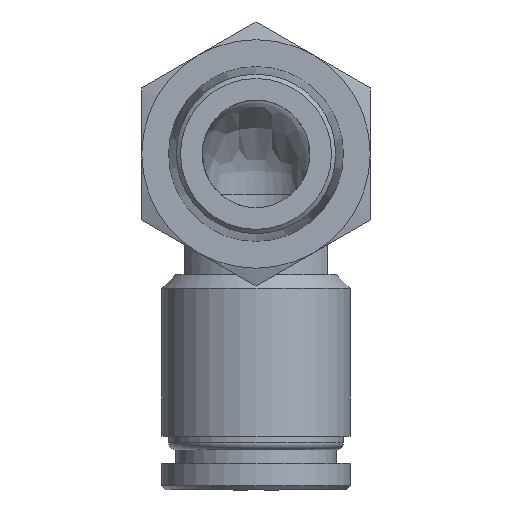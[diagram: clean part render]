
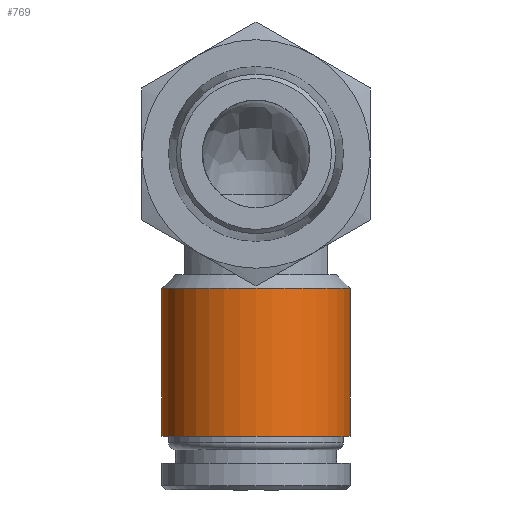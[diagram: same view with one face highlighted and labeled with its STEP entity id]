
A CAD part, front view. The second image highlights one B-rep face of the part: STEP entity #769.
In plain terms, the highlighted cylindrical face has radius 7 mm (diameter 14 mm), a full revolution.
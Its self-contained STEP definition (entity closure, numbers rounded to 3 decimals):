
#27=CYLINDRICAL_SURFACE('',#885,7.);
#122=FACE_OUTER_BOUND('',#181,.T.);
#181=EDGE_LOOP('',(#648,#649,#650,#651));
#213=LINE('',#1380,#243);
#243=VECTOR('',#1093,7.);
#292=CIRCLE('',#878,7.);
#295=CIRCLE('',#884,7.);
#362=VERTEX_POINT('',#1367);
#364=VERTEX_POINT('',#1377);
#459=EDGE_CURVE('',#362,#362,#292,.T.);
#463=EDGE_CURVE('',#364,#364,#295,.T.);
#464=EDGE_CURVE('',#362,#364,#213,.T.);
#648=ORIENTED_EDGE('',*,*,#459,.F.);
#649=ORIENTED_EDGE('',*,*,#464,.T.);
#650=ORIENTED_EDGE('',*,*,#463,.T.);
#651=ORIENTED_EDGE('',*,*,#464,.F.);
#769=ADVANCED_FACE('',(#122),#27,.T.);
#878=AXIS2_PLACEMENT_3D('',#1369,#1076,#1077);
#884=AXIS2_PLACEMENT_3D('',#1378,#1089,#1090);
#885=AXIS2_PLACEMENT_3D('',#1379,#1091,#1092);
#1076=DIRECTION('center_axis',(0.,0.,1.));
#1077=DIRECTION('ref_axis',(1.,0.,0.));
#1089=DIRECTION('center_axis',(0.,0.,1.));
#1090=DIRECTION('ref_axis',(1.,0.,0.));
#1091=DIRECTION('center_axis',(0.,0.,1.));
#1092=DIRECTION('ref_axis',(0.,-1.,0.));
#1093=DIRECTION('',(0.,0.,-1.));
#1367=CARTESIAN_POINT('',(0.,18.9,-10.));
#1369=CARTESIAN_POINT('Origin',(0.,11.9,-10.));
#1377=CARTESIAN_POINT('',(0.,18.9,-21.));
#1378=CARTESIAN_POINT('Origin',(0.,11.9,-21.));
#1379=CARTESIAN_POINT('Origin',(0.,11.9,-15.5));
#1380=CARTESIAN_POINT('',(0.,18.9,-15.5));
